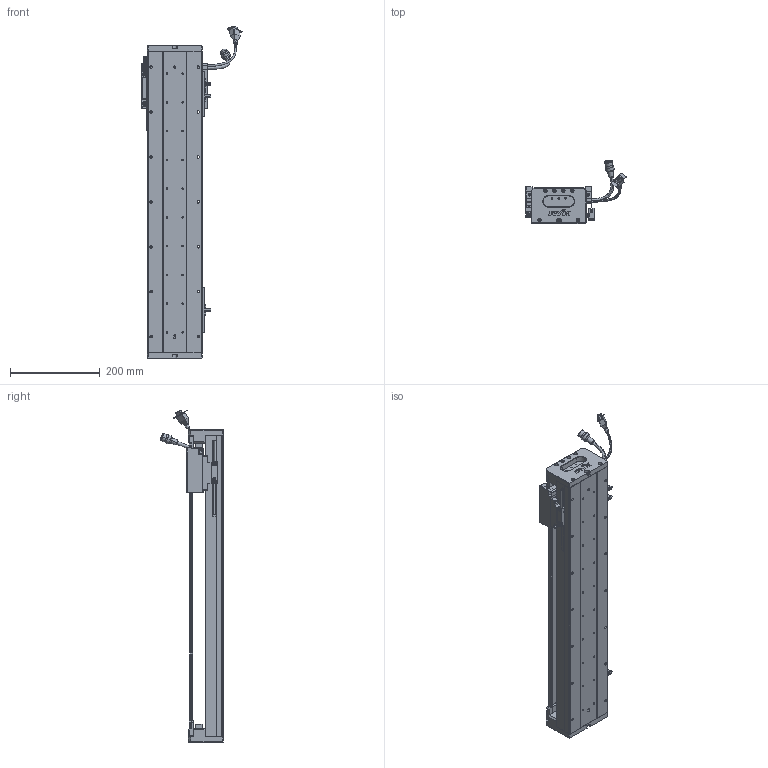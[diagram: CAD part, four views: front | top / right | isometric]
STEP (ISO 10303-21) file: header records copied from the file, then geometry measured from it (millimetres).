
FILE_DESCRIPTION (( 'STEP AP203' ), '1' );
FILE_NAME ('Z1-RY120D-1-L500-B-K.SLDASM_默认.step', '2021-05-17T03:44:07', ( '盈信电脑' ), ( '东莞市道滘镇水果街19号' ), 'SwSTEP 2.0', 'SolidWorks 2016', '' );
FILE_SCHEMA (( 'CONFIG_CONTROL_DESIGN' ));
Length unit declared in the file: millimetre
Products named in the file (37): HARNESS; Z1-RY120D-1-L500-B-K.SLDASM_默认; COVER-Part-1; Z1-RY120-500-倰第菁釱; 140蚥薯蝶輸; SCREW-M1.6-3; SCREW-M1.7; LABEL-Part-1; SCREW-M1.6; 672嫖萇羲壽假蚾釱; Z1-RY120-L500詩湍100mm遵; 140雄赽晤鎢ん堤盄; SCREW-M1.7-1; SHIELDPLATE; Z-120詩湍傷裔啣; HARNESS-Part-1; SCREW-M1.6-1; PBU_SHEET; 120-Z-臏賑輸盄裔(21遴); HARNESS-Part-2; 080黍杅芛假蚾釱21遴; RY100FB-遵嫖萇覜茼え; 榋妏寠巭燃_暯_M2_2; Z1-RY120铝滑块（21款）; Z-RY120D詩湍奻揤裔; 覜茼ん672; SEAL; LABEL; PSLH080_PSLF2; SEAL-Part-1; SCALE; Z-RY120D詩湍狟揤裔; HOLDER0; SCALE-Part-1; SCREW-M1.6-2; COVER; SCALE-Part-2
Assembly tree (43 placements, depth 4):
  Z1-RY120D-1-L500-B-K.SLDASM_默认
    Z1-RY120-500-倰第菁釱
    覜茼ん672  x3
    672嫖萇羲壽假蚾釱  x2
    Z1-RY120铝滑块（21款）
    PSLH080_PSLF2
      SCALE
        SCALE-Part-1
        SCALE-Part-2
      HARNESS
        HARNESS-Part-1
        HARNESS-Part-2
      LABEL
        LABEL-Part-1
      COVER
        COVER-Part-1
      SEAL
        SEAL-Part-1
      榋妏寠巭燃_暯_M2_2
      SHIELDPLATE
      SCREW-M1.7
      SCREW-M1.7-1
      PBU_SHEET
      SCREW-M1.6
      SCREW-M1.6-1
      SCREW-M1.6-2
      SCREW-M1.6-3
      HOLDER0
    080黍杅芛假蚾釱21遴
    120-Z-臏賑輸盄裔(21遴)
    140雄赽晤鎢ん堤盄
    140蚥薯蝶輸  x2
    RY100FB-遵嫖萇覜茼え
    Z-120詩湍傷裔啣  x2
    Z-RY120D詩湍奻揤裔  x2
    Z-RY120D詩湍狟揤裔  x2
    Z1-RY120-L500詩湍100mm遵
Bounding box: 222.88 x 140.94 x 739 mm (x, y, z)
Volume: 2046208.2 mm3; surface area: 708109.4 mm2
Topology: 38 solids, 38 shells, 2551 faces, 6798 edges, 4302 vertices
Faces by surface type: cylinder 1102, plane 1087, cone 240, torus 69, bspline 53
Entity records: 74161 total; most frequent: CARTESIAN_POINT 19116, ORIENTED_EDGE 10644, DIRECTION 10598, EDGE_CURVE 5322, AXIS2_PLACEMENT_3D 3840, VERTEX_POINT 3422, VECTOR 2918, LINE 2918
